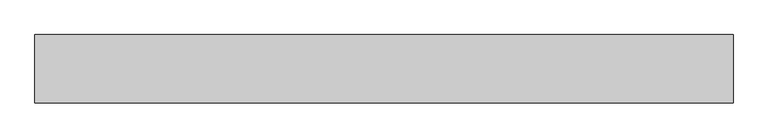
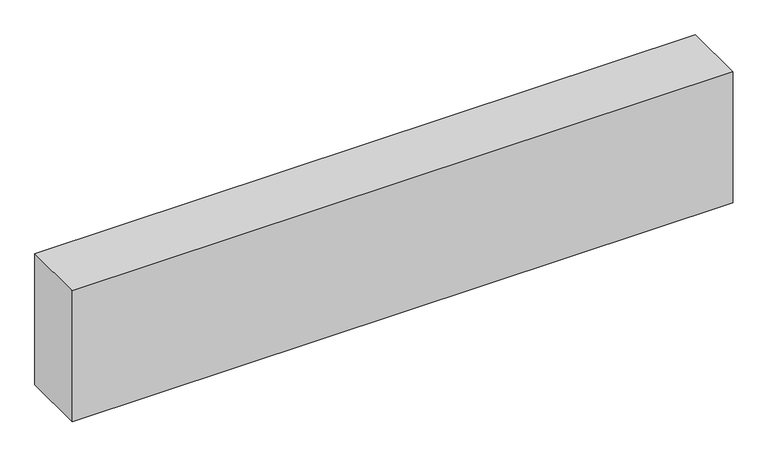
"""IFC4 building model written with IfcOpenShell, lengths in millimetres: proxy geometry."""

from ifc_helpers import new_model, si_unit, frame, origin, place, context, project, spatial, polyline, outline, extrude, source, transform, mapped, element, save


def structural_framing_10d8edc3(model_context):
    return source(origin(), model_context, "Body", "SweptSolid", [
        extrude(outline(polyline([(-716.6, -70.0), (-716.6, 70.0), (716.6, 70.0), (716.6, -70.0), (-716.6, -70.0)])), frame((0.0, 0.0, -300.0), z_axis=(0.0, 0.0, 1.0), x_axis=(1.0, 0.0, 0.0)), (0.0, 0.0, 1.0), 300.0),
    ])


if __name__ == "__main__":
    model = new_model("IFC4")
    model_context = context("Model", 3, world=origin())
    ifc_project = project(units=[si_unit("LENGTHUNIT", "METRE", prefix="MILLI")], contexts=[model_context])
    site = spatial("IfcSite", under=ifc_project)
    building = spatial("IfcBuilding", under=site)
    placement = place(None, origin())
    structural_framing_shape = structural_framing_10d8edc3(model_context)
    element("IfcBuildingElementProxy", 1, Name="Structural Framing", at=placement, inside=building, context=model_context, shape_type="MappedRepresentation", body=[
        mapped(structural_framing_shape, transform((0.0, 0.0, 0.0), x_axis=(1.0, 0.0, 0.0), y_axis=(0.0, 1.0, 0.0), z_axis=(0.0, 0.0, 1.0))),
    ])
    save(model, "model.ifc")
